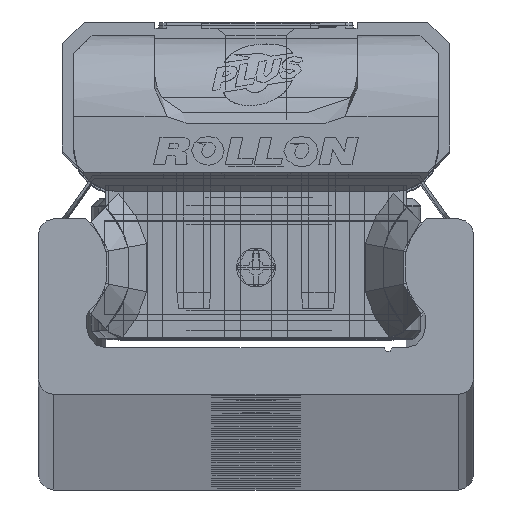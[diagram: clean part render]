
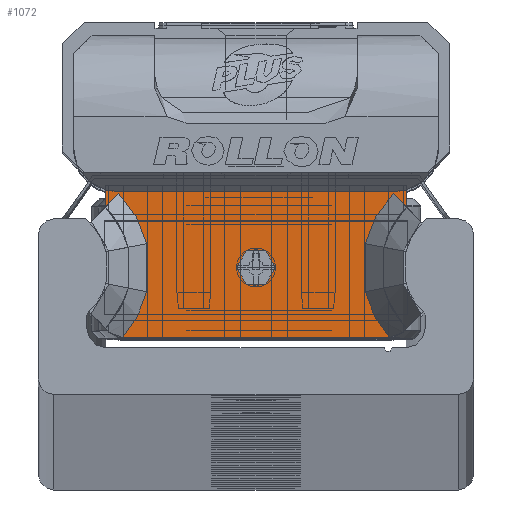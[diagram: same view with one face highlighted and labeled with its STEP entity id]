
A CAD part, top view. The second image highlights one B-rep face of the part: STEP entity #1072.
In plain terms, the highlighted planar face has unit normal (0, 0, 1) as drawn and (0, 0, -1) by its records, which use the part's own axes.
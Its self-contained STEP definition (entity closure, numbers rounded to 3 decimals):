
#1072 = ADVANCED_FACE( '', ( #2703, #2704 ), #2705, .F. );
#2703 = FACE_BOUND( '', #5217, .T. );
#2704 = FACE_OUTER_BOUND( '', #5218, .T. );
#2705 = PLANE( '', #5219 );
#5217 = EDGE_LOOP( '', ( #8274 ) );
#5218 = EDGE_LOOP( '', ( #8275, #8276, #8277, #8278, #8279, #8280, #8281, #8282, #8283, #8284, #8285, #8286, #8287, #8288 ) );
#5219 = AXIS2_PLACEMENT_3D( '', #8289, #8290, #8291 );
#8274 = ORIENTED_EDGE( '', *, *, #13833, .T. );
#8275 = ORIENTED_EDGE( '', *, *, #14013, .F. );
#8276 = ORIENTED_EDGE( '', *, *, #14014, .T. );
#8277 = ORIENTED_EDGE( '', *, *, #13825, .T. );
#8278 = ORIENTED_EDGE( '', *, *, #13864, .T. );
#8279 = ORIENTED_EDGE( '', *, *, #14015, .T. );
#8280 = ORIENTED_EDGE( '', *, *, #14016, .T. );
#8281 = ORIENTED_EDGE( '', *, *, #13827, .T. );
#8282 = ORIENTED_EDGE( '', *, *, #14017, .T. );
#8283 = ORIENTED_EDGE( '', *, *, #14018, .T. );
#8284 = ORIENTED_EDGE( '', *, *, #13613, .T. );
#8285 = ORIENTED_EDGE( '', *, *, #14019, .T. );
#8286 = ORIENTED_EDGE( '', *, *, #14020, .T. );
#8287 = ORIENTED_EDGE( '', *, *, #14021, .T. );
#8288 = ORIENTED_EDGE( '', *, *, #14022, .T. );
#8289 = CARTESIAN_POINT( '', ( 9.7, 4.89, -10.6 ) );
#8290 = DIRECTION( '', ( 0., 0., 1. ) );
#8291 = DIRECTION( '', ( 1., 0., 0. ) );
#13613 = EDGE_CURVE( '', #16011, #16032, #16034, .T. );
#13825 = EDGE_CURVE( '', #16394, #16398, #16400, .T. );
#13827 = EDGE_CURVE( '', #16402, #16403, #16404, .T. );
#13833 = EDGE_CURVE( '', #16413, #16413, #16414, .T. );
#13864 = EDGE_CURVE( '', #16398, #16465, #16467, .T. );
#14013 = EDGE_CURVE( '', #16724, #16725, #16726, .T. );
#14014 = EDGE_CURVE( '', #16724, #16394, #16727, .T. );
#14015 = EDGE_CURVE( '', #16465, #16728, #16729, .T. );
#14016 = EDGE_CURVE( '', #16728, #16402, #16730, .T. );
#14017 = EDGE_CURVE( '', #16403, #16731, #16732, .T. );
#14018 = EDGE_CURVE( '', #16731, #16011, #16733, .T. );
#14019 = EDGE_CURVE( '', #16032, #16734, #16735, .T. );
#14020 = EDGE_CURVE( '', #16734, #16736, #16737, .T. );
#14021 = EDGE_CURVE( '', #16736, #16738, #16739, .T. );
#14022 = EDGE_CURVE( '', #16738, #16725, #16740, .T. );
#16011 = VERTEX_POINT( '', #19568 );
#16032 = VERTEX_POINT( '', #19595 );
#16034 = LINE( '', #19598, #19599 );
#16394 = VERTEX_POINT( '', #20086 );
#16398 = VERTEX_POINT( '', #20092 );
#16400 = LINE( '', #20095, #20096 );
#16402 = VERTEX_POINT( '', #20098 );
#16403 = VERTEX_POINT( '', #20099 );
#16404 = B_SPLINE_CURVE_WITH_KNOTS( '', 2, ( #20100, #20101, #20102, #20103, #20104 ), .UNSPECIFIED., .F., .F., ( 3, 2, 3 ), ( 0., 0.5, 1. ), .UNSPECIFIED. );
#16413 = VERTEX_POINT( '', #20118 );
#16414 = CIRCLE( '', #20119, 1.25 );
#16465 = VERTEX_POINT( '', #20225 );
#16467 = CIRCLE( '', #20228, 2.8 );
#16724 = VERTEX_POINT( '', #20593 );
#16725 = VERTEX_POINT( '', #20594 );
#16726 = LINE( '', #20595, #20596 );
#16727 = CIRCLE( '', #20597, 2.8 );
#16728 = VERTEX_POINT( '', #20598 );
#16729 = LINE( '', #20599, #20600 );
#16730 = LINE( '', #20601, #20602 );
#16731 = VERTEX_POINT( '', #20603 );
#16732 = B_SPLINE_CURVE_WITH_KNOTS( '', 2, ( #20604, #20605, #20606 ), .UNSPECIFIED., .F., .F., ( 3, 3 ), ( 0., 1. ), .UNSPECIFIED. );
#16733 = B_SPLINE_CURVE_WITH_KNOTS( '', 2, ( #20607, #20608, #20609 ), .UNSPECIFIED., .F., .F., ( 3, 3 ), ( 0., 1. ), .UNSPECIFIED. );
#16734 = VERTEX_POINT( '', #20610 );
#16735 = B_SPLINE_CURVE_WITH_KNOTS( '', 2, ( #20611, #20612, #20613 ), .UNSPECIFIED., .F., .F., ( 3, 3 ), ( 0.1, 1. ), .UNSPECIFIED. );
#16736 = VERTEX_POINT( '', #20614 );
#16737 = B_SPLINE_CURVE_WITH_KNOTS( '', 2, ( #20615, #20616, #20617 ), .UNSPECIFIED., .F., .F., ( 3, 3 ), ( 0., 1. ), .UNSPECIFIED. );
#16738 = VERTEX_POINT( '', #20618 );
#16739 = B_SPLINE_CURVE_WITH_KNOTS( '', 2, ( #20619, #20620, #20621 ), .UNSPECIFIED., .F., .F., ( 3, 3 ), ( 0., 1. ), .UNSPECIFIED. );
#16740 = LINE( '', #20622, #20623 );
#19568 = CARTESIAN_POINT( '', ( 8.59, -4.893, -10.6 ) );
#19595 = CARTESIAN_POINT( '', ( -8.59, -4.893, -10.6 ) );
#19598 = CARTESIAN_POINT( '', ( 9.7, -4.89, -10.6 ) );
#19599 = VECTOR( '', #24405, 1000. );
#20086 = CARTESIAN_POINT( '', ( -8.95, 4.51, -10.6 ) );
#20092 = CARTESIAN_POINT( '', ( 8.95, 4.51, -10.6 ) );
#20095 = CARTESIAN_POINT( '', ( 9.7, 4.51, -10.6 ) );
#20096 = VECTOR( '', #24705, 1000. );
#20098 = CARTESIAN_POINT( '', ( 8.853, 4.366, -10.6 ) );
#20099 = CARTESIAN_POINT( '', ( 7.031, 1.144, -10.6 ) );
#20100 = CARTESIAN_POINT( '', ( 8.853, 4.366, -10.6 ) );
#20101 = CARTESIAN_POINT( '', ( 8.182, 3.708, -10.6 ) );
#20102 = CARTESIAN_POINT( '', ( 7.715, 2.883, -10.6 ) );
#20103 = CARTESIAN_POINT( '', ( 7.249, 2.058, -10.6 ) );
#20104 = CARTESIAN_POINT( '', ( 7.031, 1.144, -10.6 ) );
#20118 = CARTESIAN_POINT( '', ( 1.25, -0.39, -10.6 ) );
#20119 = AXIS2_PLACEMENT_3D( '', #24709, #24710, #24711 );
#20225 = CARTESIAN_POINT( '', ( 9.7, 4.612, -10.6 ) );
#20228 = AXIS2_PLACEMENT_3D( '', #24745, #24746, #24747 );
#20593 = CARTESIAN_POINT( '', ( -9.7, 4.612, -10.6 ) );
#20594 = CARTESIAN_POINT( '', ( -9.7, 3.494, -10.6 ) );
#20595 = CARTESIAN_POINT( '', ( -9.7, 4.89, -10.6 ) );
#20596 = VECTOR( '', #24942, 1000. );
#20597 = AXIS2_PLACEMENT_3D( '', #24943, #24944, #24945 );
#20598 = CARTESIAN_POINT( '', ( 9.7, 3.497, -10.6 ) );
#20599 = CARTESIAN_POINT( '', ( 9.7, 4.89, -10.6 ) );
#20600 = VECTOR( '', #24946, 1000. );
#20601 = CARTESIAN_POINT( '', ( 9.7, 3.501, -10.6 ) );
#20602 = VECTOR( '', #24947, 1000. );
#20603 = CARTESIAN_POINT( '', ( 7.031, -1.944, -10.6 ) );
#20604 = CARTESIAN_POINT( '', ( 7.031, 1.144, -10.6 ) );
#20605 = CARTESIAN_POINT( '', ( 6.929, -0.4, -10.6 ) );
#20606 = CARTESIAN_POINT( '', ( 7.031, -1.944, -10.6 ) );
#20607 = CARTESIAN_POINT( '', ( 7.031, -1.944, -10.6 ) );
#20608 = CARTESIAN_POINT( '', ( 7.429, -3.615, -10.6 ) );
#20609 = CARTESIAN_POINT( '', ( 8.588, -4.89, -10.6 ) );
#20610 = CARTESIAN_POINT( '', ( -7.031, -1.944, -10.6 ) );
#20611 = CARTESIAN_POINT( '', ( -8.587, -4.89, -10.6 ) );
#20612 = CARTESIAN_POINT( '', ( -7.432, -3.63, -10.6 ) );
#20613 = CARTESIAN_POINT( '', ( -7.031, -1.944, -10.6 ) );
#20614 = CARTESIAN_POINT( '', ( -7.031, 1.144, -10.6 ) );
#20615 = CARTESIAN_POINT( '', ( -7.031, -1.944, -10.6 ) );
#20616 = CARTESIAN_POINT( '', ( -6.929, -0.4, -10.6 ) );
#20617 = CARTESIAN_POINT( '', ( -7.031, 1.144, -10.6 ) );
#20618 = CARTESIAN_POINT( '', ( -8.853, 4.366, -10.6 ) );
#20619 = CARTESIAN_POINT( '', ( -7.031, 1.144, -10.6 ) );
#20620 = CARTESIAN_POINT( '', ( -7.477, 3.018, -10.6 ) );
#20621 = CARTESIAN_POINT( '', ( -8.853, 4.366, -10.6 ) );
#20622 = CARTESIAN_POINT( '', ( -8.853, 4.366, -10.6 ) );
#20623 = VECTOR( '', #24948, 1000. );
#24405 = DIRECTION( '', ( -1., 0., 0. ) );
#24705 = DIRECTION( '', ( 1., 0., 0. ) );
#24709 = CARTESIAN_POINT( '', ( 0., -0.39, -10.6 ) );
#24710 = DIRECTION( '', ( 0., 0., 1. ) );
#24711 = DIRECTION( '', ( 1., 0., 0. ) );
#24745 = CARTESIAN_POINT( '', ( 8.95, 7.31, -10.6 ) );
#24746 = DIRECTION( '', ( 0., 0., 1. ) );
#24747 = DIRECTION( '', ( 1., 0., 0. ) );
#24942 = DIRECTION( '', ( 0., -1., 0. ) );
#24943 = CARTESIAN_POINT( '', ( -8.95, 7.31, -10.6 ) );
#24944 = DIRECTION( '', ( 0., 0., 1. ) );
#24945 = DIRECTION( '', ( 1., 0., 0. ) );
#24946 = DIRECTION( '', ( 0., -1., 0. ) );
#24947 = DIRECTION( '', ( -0.7, 0.714, 0. ) );
#24948 = DIRECTION( '', ( -0.7, -0.714, 0. ) );
